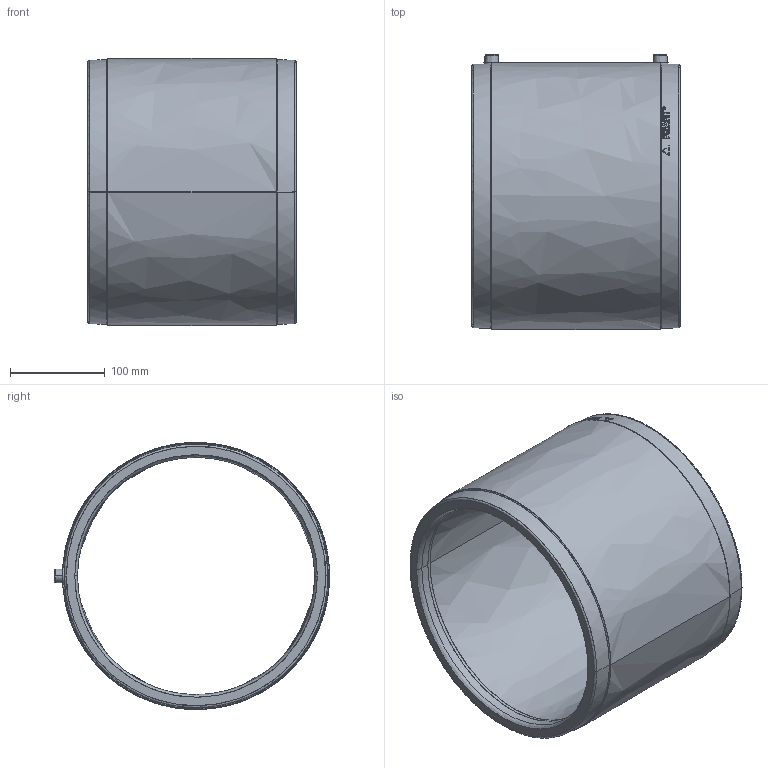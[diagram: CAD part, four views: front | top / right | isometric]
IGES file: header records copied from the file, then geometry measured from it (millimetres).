
Start section:  PTC IGES file: am_d250.igs
Global section: file name: am_d250.igs; native system: Pro/ENGINEER by Parametric Technology Corporation; preprocessor: 2011490; author: mtunjic; organization: Unknown; date: 20130729.163421; units: millimetre
Bounding box: 220 x 290.6 x 282 mm (x, y, z)
Surface area: 391275.3 mm2 (no closed solid volume)
Topology: 0 solids, 0 shells, 231 faces, 1104 edges, 1104 vertices
Faces by surface type: bspline 231
